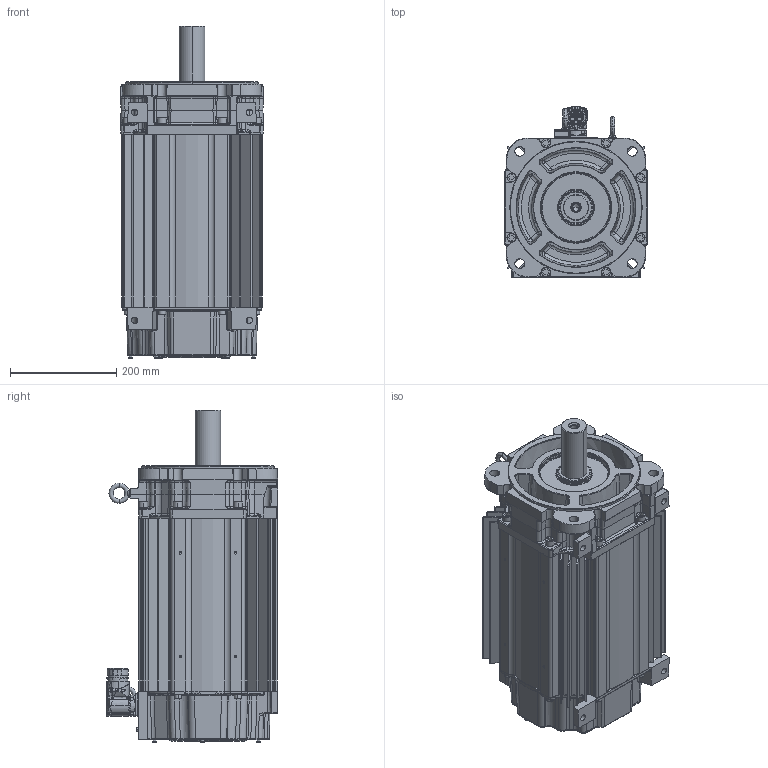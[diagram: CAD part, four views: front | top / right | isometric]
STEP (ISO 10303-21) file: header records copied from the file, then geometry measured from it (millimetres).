
FILE_DESCRIPTION((''),'2;1');
FILE_NAME('10005239736_ASM','2020-01-16T11:25:11',('VThimma'),('Rockwell Automation'),'CREO PARAMETRIC BY PTC INC, 2017380','CREO PARAMETRIC BY PTC INC, 2017380','');
FILE_SCHEMA(('CONFIG_CONTROL_DESIGN','SHAPE_APPEARANCE_LAYERS_GROUPS'));
Products named in the file (20): 10001441958; 10001404634_AF0; 10001404629_AF6; 10001404635_ASM; 10001585735; 10001442012_ASM; 10001439798_KEYLESS; 10001440031_ASM; 10001405269_AF27; 10001405369_ASM; 10001586887; 0002-5004; 10001609981; 10001737030; 10000801000; 10000801001; 10000801002_ASM; 221404-Q12; 10001408124; 10005239736_ASM
Assembly tree (42 placements, depth 4):
  10005239736_ASM
    10001442012_ASM
      10001441958
      10001404635_ASM
        10001404634_AF0
        10001404629_AF6
      10001585735  x8
    10001440031_ASM
      10001439798_KEYLESS
    10001405369_ASM
      10001405269_AF27
    10001586887  x7
    0002-5004  x2
    10001609981
    10001737030
    10000801002_ASM
      10000801000
      10000801001
    221404-Q12  x10
    10001408124
Bounding box: 269.49 x 324.1 x 626.33 mm (x, y, z)
Surface area: 2017894.8 mm2 (no closed solid volume)
Topology: 0 solids, 40 shells, 4476 faces, 11148 edges, 6811 vertices
Faces by surface type: cylinder 1433, plane 1228, bspline 754, torus 547, cone 443, sphere 64, extrusion 7
Entity records: 184705 total; most frequent: CARTESIAN_POINT 53897, ORIENTED_EDGE 17358, DIRECTION 16279, PRESENTATION_STYLE_ASSIGNMENT 12132, STYLED_ITEM 12132, CURVE_STYLE 8690, EDGE_CURVE 8683, AXIS2_PLACEMENT_3D 6389
